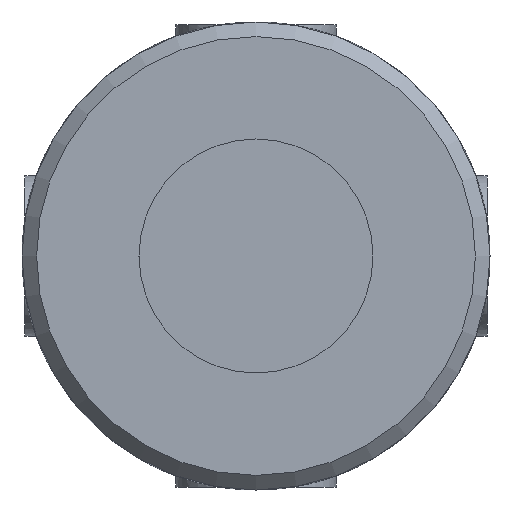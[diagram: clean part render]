
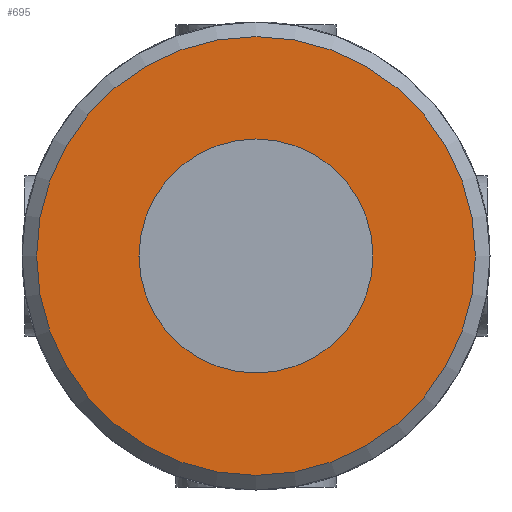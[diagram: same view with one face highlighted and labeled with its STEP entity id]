
A CAD part, front view. The second image highlights one B-rep face of the part: STEP entity #695.
In plain terms, the highlighted planar face has unit normal (0, -1, 0).
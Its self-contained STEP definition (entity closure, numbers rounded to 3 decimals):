
#127=PLANE('',#760);
#153=FACE_BOUND('',#241,.T.);
#178=FACE_OUTER_BOUND('',#240,.T.);
#240=EDGE_LOOP('',(#540));
#241=EDGE_LOOP('',(#541));
#289=CIRCLE('',#755,8.);
#291=CIRCLE('',#758,15.);
#334=VERTEX_POINT('',#1084);
#336=VERTEX_POINT('',#1089);
#404=EDGE_CURVE('',#334,#334,#289,.T.);
#406=EDGE_CURVE('',#336,#336,#291,.T.);
#540=ORIENTED_EDGE('',*,*,#406,.F.);
#541=ORIENTED_EDGE('',*,*,#404,.T.);
#695=ADVANCED_FACE('',(#178,#153),#127,.F.);
#755=AXIS2_PLACEMENT_3D('',#1085,#885,#886);
#758=AXIS2_PLACEMENT_3D('',#1090,#891,#892);
#760=AXIS2_PLACEMENT_3D('',#1302,#899,#900);
#885=DIRECTION('center_axis',(0.,1.,0.));
#886=DIRECTION('ref_axis',(-1.,0.,0.));
#891=DIRECTION('center_axis',(0.,1.,0.));
#892=DIRECTION('ref_axis',(1.,0.,0.));
#899=DIRECTION('center_axis',(0.,1.,0.));
#900=DIRECTION('ref_axis',(0.,0.,1.));
#1084=CARTESIAN_POINT('',(8.,-42.,0.));
#1085=CARTESIAN_POINT('Origin',(0.,-42.,0.));
#1089=CARTESIAN_POINT('',(-15.,-42.,0.));
#1090=CARTESIAN_POINT('Origin',(0.,-42.,0.));
#1302=CARTESIAN_POINT('Origin',(0.,-42.,0.));
